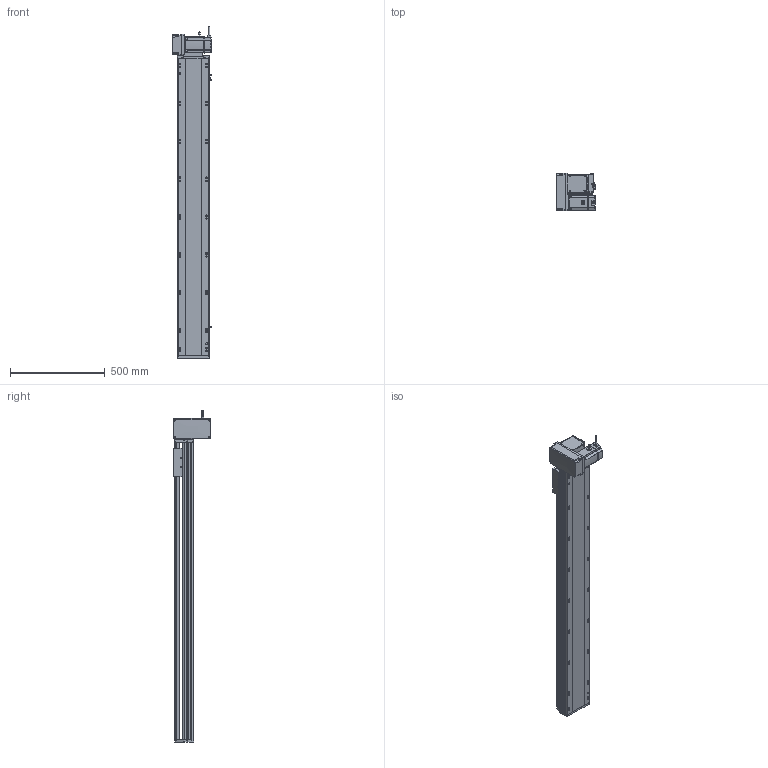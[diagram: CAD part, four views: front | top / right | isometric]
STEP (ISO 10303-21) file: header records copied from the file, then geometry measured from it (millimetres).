
FILE_DESCRIPTION (( 'STEP AP214' ), '1' );
FILE_NAME ('RTB17S-XX-1300-LM-M75-C4.STEP', '2025-12-12T00:40:18', ( '' ), ( '' ), 'SwSTEP 2.0', 'SolidWorks 2018', '' );
FILE_SCHEMA (( 'AUTOMOTIVE_DESIGN' ));
Length unit declared in the file: millimetre
Products named in the file (15): RTB17S-LM-々湍釱蚾饜-750W^RTB17S-XX-XX-LM-M75-C4; RTB17S-L-007奻裔^RTB17S-XX-XX-LM-M75-C4; RTH13-BL-012覜茼え俋离^RTB17S-賑釱_RTB17S-XX-XX-LM-M75-C4; RTB22S-GY-017P^RTB17S-LM-々湍釱蚾饜-750W_RTB17S-XX-XX-LM-M75-C4; 750W萇儂^RTB17S-XX-XX-LM-M75-C4; RTB22S-GY-018P^RTB17S-LM-々湍釱蚾饜-750W_RTB17S-XX-XX-LM-M75-C4; RTB17S-L-001-耜醱啣^RTB17S-XX-XX-LM-M75-C4; RTB17S-賑釱^RTB17S-XX-XX-LM-M75-C4; EE672^RTB17S-XX-XX-LM-M75-C4; RTB17-R-011菁釱^RTB17S-XX-XX-LM-M75-C4; RTB17S-XX-1300-LM-M75-C4; RTB22S-GY-005P^RTB17S-LM-々湍釱蚾饜-750W_RTB17S-XX-XX-LM-M75-C4; RTB17S-L-004-賑釱^RTB17S-賑釱_RTB17S-XX-XX-LM-M75-C4; RTB17S-L-014-T20-P75--々湍釱^RTB17S-LM-々湍釱蚾饜-750W_RTB17S-XX-XX-LM-M75-C4; RTB22S-GY-008-M75--萇儂啣^RTB17S-LM-々湍釱蚾饜-750W_RTB17S-XX-XX-LM-M75-C4
Assembly tree (17 placements, depth 3):
  RTB17S-XX-1300-LM-M75-C4
    RTB17-R-011菁釱^RTB17S-XX-XX-LM-M75-C4
    EE672^RTB17S-XX-XX-LM-M75-C4  x3
    RTB17S-L-001-耜醱啣^RTB17S-XX-XX-LM-M75-C4
    RTB17S-賑釱^RTB17S-XX-XX-LM-M75-C4
      RTB17S-L-004-賑釱^RTB17S-賑釱_RTB17S-XX-XX-LM-M75-C4
      RTH13-BL-012覜茼え俋离^RTB17S-賑釱_RTB17S-XX-XX-LM-M75-C4
    RTB17S-L-007奻裔^RTB17S-XX-XX-LM-M75-C4
    750W萇儂^RTB17S-XX-XX-LM-M75-C4
    RTB17S-LM-々湍釱蚾饜-750W^RTB17S-XX-XX-LM-M75-C4
      RTB17S-L-014-T20-P75--々湍釱^RTB17S-LM-々湍釱蚾饜-750W_RTB17S-XX-XX-LM-M75-C4
      RTB22S-GY-005P^RTB17S-LM-々湍釱蚾饜-750W_RTB17S-XX-XX-LM-M75-C4
      RTB22S-GY-017P^RTB17S-LM-々湍釱蚾饜-750W_RTB17S-XX-XX-LM-M75-C4  x2
      RTB22S-GY-008-M75--萇儂啣^RTB17S-LM-々湍釱蚾饜-750W_RTB17S-XX-XX-LM-M75-C4
      RTB22S-GY-018P^RTB17S-LM-々湍釱蚾饜-750W_RTB17S-XX-XX-LM-M75-C4
Bounding box: 210.4 x 200 x 1752.2 mm (x, y, z)
Volume: 14073865.6 mm3; surface area: 2440317.1 mm2
Topology: 17 solids, 17 shells, 2121 faces, 5890 edges, 3806 vertices
Faces by surface type: plane 974, cylinder 731, bspline 294, cone 110, sphere 8, torus 4
Entity records: 59638 total; most frequent: CARTESIAN_POINT 17554, ORIENTED_EDGE 8624, DIRECTION 8042, EDGE_CURVE 4312, AXIS2_PLACEMENT_3D 2826, VERTEX_POINT 2810, LINE 2390, VECTOR 2390
